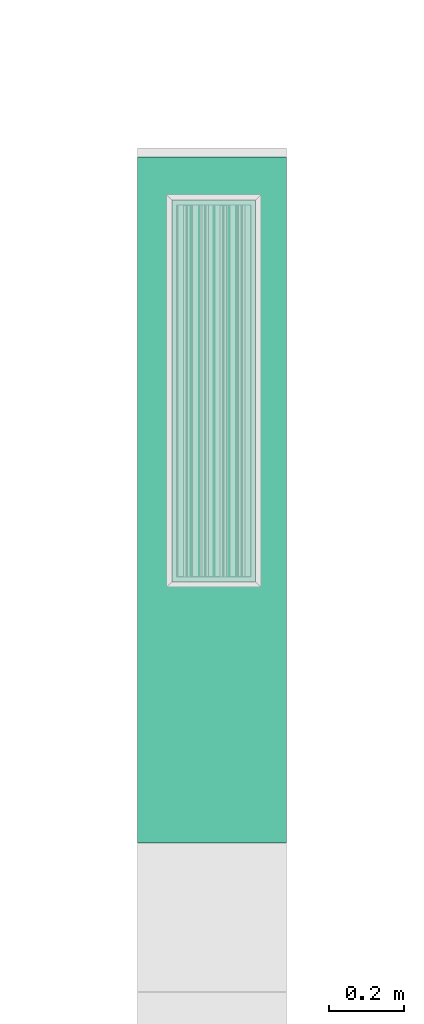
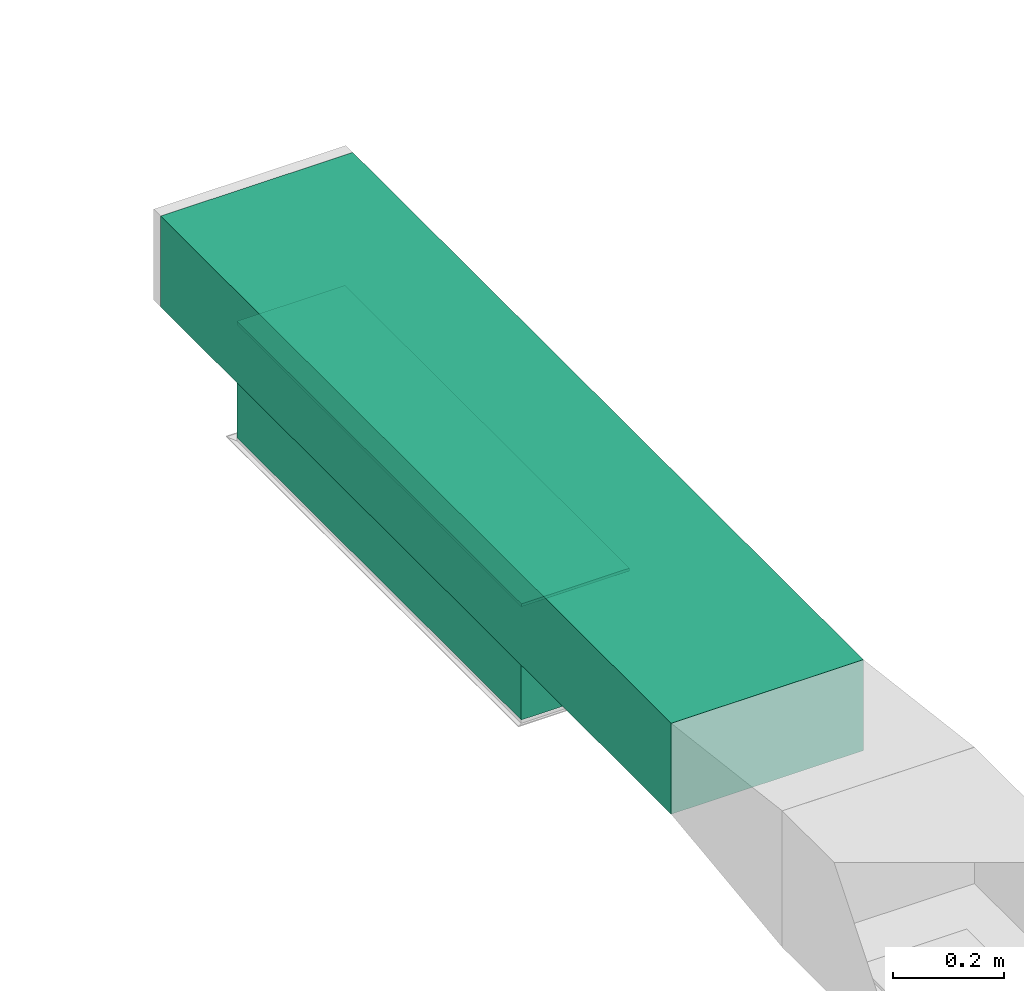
# One storey, part 16 of 60: 2 flow segments, 1 flow fitting.
"""IFC2X3 building model written with IfcOpenShell, lengths in millimetres."""

from ifc_helpers import new_model, entity, si_unit, converted_unit, derived_unit, direction, frame, frame_2d, origin, origin_2d_with_axis, place, context, subcontext, project, spatial, polyline, rectangle, outline, extrude, source, transform, mapped, material, type_object, type_shapes, element, save


model = new_model("IFC2X3")

# Units and contexts
model_context = context("Model", 3, precision=0.01, world=origin(), true_north=direction((6.123233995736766e-17, 1.0)))
body_context = subcontext(model_context, "Body", "Model", "MODEL_VIEW")
ifc_project = project(units=[si_unit("LENGTHUNIT", "METRE", prefix="MILLI"), converted_unit("PLANEANGLEUNIT", "DEGREE", entity("IfcPlaneAngleMeasure", 0.017453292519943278), si_unit("PLANEANGLEUNIT", "RADIAN"), dimensions=[0, 0, 0, 0, 0, 0, 0]), si_unit("AREAUNIT", "SQUARE_METRE"), derived_unit("THERMALTRANSMITTANCEUNIT", [(si_unit("MASSUNIT", "GRAM", prefix="KILO"), 1), (si_unit("THERMODYNAMICTEMPERATUREUNIT", "KELVIN"), -1), (si_unit("TIMEUNIT", "SECOND"), -3)])], contexts=[model_context])

# Site, building, storey
site_placement = place(None, origin())
site = spatial("IfcSite", under=ifc_project, at=site_placement, Name="Default", CompositionType="ELEMENT")
building_placement = place(site_placement, origin())
building = spatial("IfcBuilding", under=site, at=building_placement, Name="Praça Pedro II, 1301 - Centro (Sul), Teresina - PI, 64001-100", CompositionType="ELEMENT")
storey_placement = place(building_placement, frame((0.0, 0.0, 6040.0)))
storey = spatial("IfcBuildingStorey", under=building, at=storey_placement, Name="2PAV", CompositionType="ELEMENT", Elevation=6040.0)

# Flow segments
duct_segment_type = type_object("IfcDuctSegmentType", Name="Duto retangular:Raios cotovelos / torneiras", PredefinedType="NOTDEFINED")
flow_segment_1_placement = place(storey_placement, origin())
element("IfcFlowSegment", 1, at=flow_segment_1_placement, inside=storey, type_object=duct_segment_type, Name="Duto retangular:Raios cotovelos / torneiras", ObjectType="Duto retangular:Raios cotovelos / torneiras", context=body_context, shape_type="SweptSolid", body=[
    extrude(rectangle(XDim=1840.377784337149, YDim=400.0, at=frame_2d((8.640199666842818e-12, 0.0), x_axis=(1.0, 0.0))), frame((35678.621071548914, -52613.36975956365, 3350.0), z_axis=(0.0, 0.0, 1.0), x_axis=(0.0, -1.0, 0.0)), (0.0, 0.0, 1.0), 200.0),
])
flow_segment_2_placement = place(storey_placement, origin())
element("IfcFlowSegment", 2, at=flow_segment_2_placement, inside=storey, type_object=duct_segment_type, Name="Duto retangular:Raios cotovelos / torneiras", ObjectType="Duto retangular:Raios cotovelos / torneiras", context=body_context, shape_type="SweptSolid", body=[
    extrude(rectangle(XDim=225.00000000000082, YDim=1024.9999999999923, at=origin_2d_with_axis()), frame((35683.43096155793, -52320.53026708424, 3100.0)), (0.0, 0.0, 1.0), 248.99999999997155),
])

# Flow fitting
ifc_material = material(Name="<Unnamed>")
duct_fitting_type = type_object("IfcDuctFittingType", Name="M_Rectangular Tap - Beveled:Standard", PredefinedType="NOTDEFINED", material=ifc_material)
shared_shape = source(origin(), body_context, "Body", "SweptSolid", [
    extrude(outline(polyline([(-3.0383999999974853, -615.4000000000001), (4.057600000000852, -615.4000000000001), (4.057600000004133, 410.6000000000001), (-2.0383999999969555, 410.6000000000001), (-3.0383999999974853, 409.59999999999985), (-3.0383999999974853, -615.4000000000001)])), frame((-2.038399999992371, -102.90000000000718, -112.49999999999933), z_axis=(0.0, 0.0, 1.0), x_axis=(-1.0, 0.0, 0.0)), (0.0, 0.0, 1.0), 224.99999999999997),
])
type_shapes(duct_fitting_type, [shared_shape])
flow_fitting_placement = place(storey_placement, frame((35683.43096155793, -52320.53026708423, 3350.0), z_axis=(1.0, 0.0, 0.0), x_axis=(0.0, 0.0, -1.0)))
element("IfcFlowFitting", 3, at=flow_fitting_placement, inside=storey, type_object=duct_fitting_type, material=ifc_material, Name="M_Rectangular Tap - Beveled:Standard", ObjectType="M_Rectangular Tap - Beveled:Standard", context=body_context, shape_type="MappedRepresentation", body=[
    mapped(shared_shape, transform((0.0, 0.0, 0.0), scale=1.0)),
])

save(model, "model.ifc")
